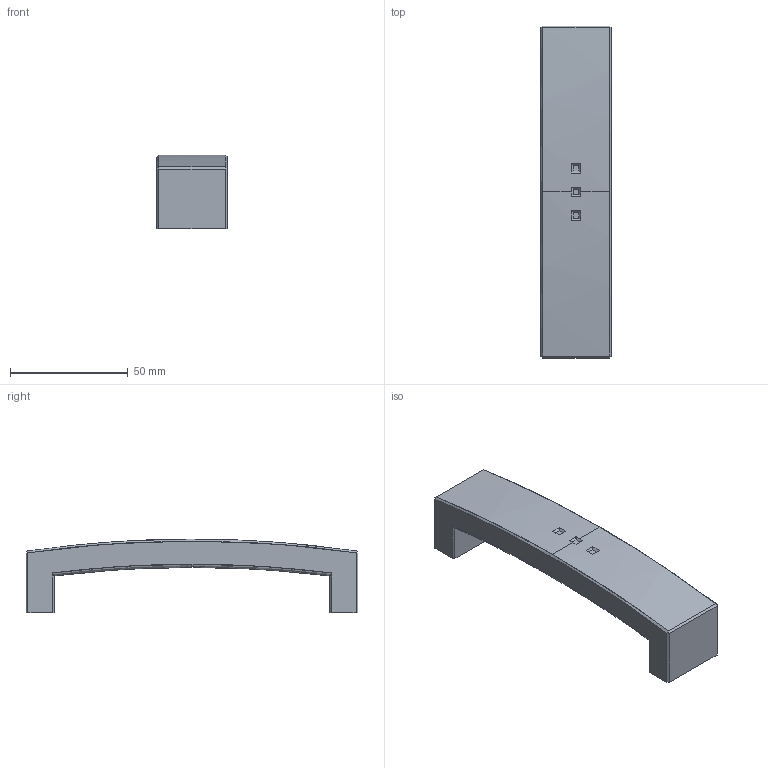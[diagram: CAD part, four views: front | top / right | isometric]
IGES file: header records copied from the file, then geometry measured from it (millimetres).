
Start section: C
Global section: file name: 0094-140.igs; native system: By Siemens PLM Incorporated; preprocessor: XPlus GENERIC/IGES 16.0.42; author: Author; organization: Title; date: 20260104.152049; units: millimetre
Bounding box: 30 x 140.7 x 31.3 mm (x, y, z)
Surface area: 21441.2 mm2 (no closed solid volume)
Topology: 0 solids, 0 shells, 88 faces, 442 edges, 442 vertices
Faces by surface type: bspline 88
